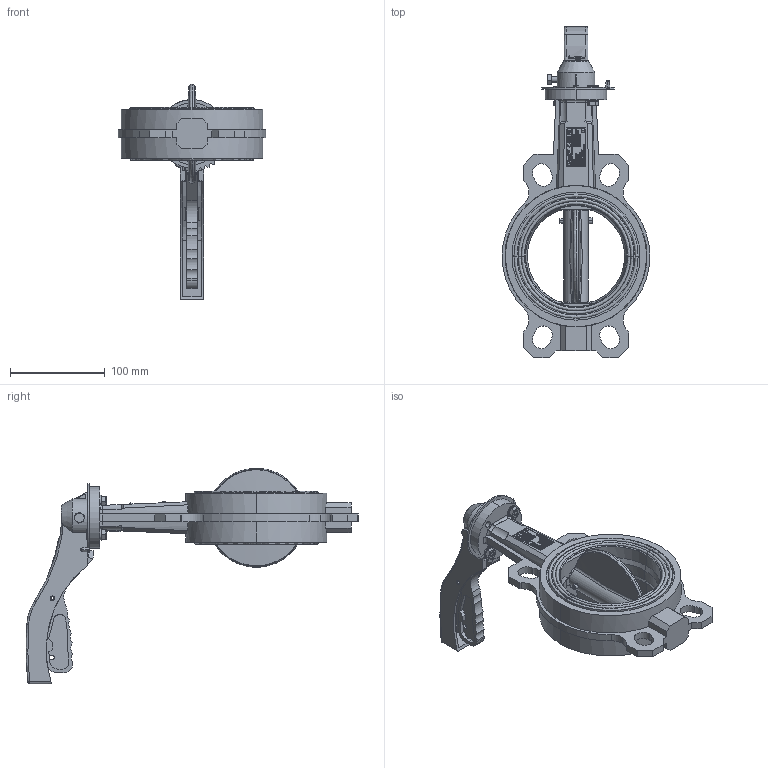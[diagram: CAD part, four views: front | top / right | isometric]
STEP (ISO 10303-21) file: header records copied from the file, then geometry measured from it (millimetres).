
FILE_DESCRIPTION (( 'STEP AP214' ), '1' );
FILE_NAME ('VPG444X-02XX0100-Défaut.step', '2022-05-19T16:18:47', ( '' ), ( '' ), 'SwSTEP 2.0', 'SolidWorks 2020', '' );
FILE_SCHEMA (( 'AUTOMOTIVE_DESIGN' ));
Length unit declared in the file: millimetre
Products named in the file (1): VPG444X-02XX0100-Défaut
Bounding box: 156 x 350.24 x 227.09 mm (x, y, z)
Surface area: 186591.3 mm2 (no closed solid volume)
Topology: 0 solids, 80 shells, 725 faces, 5365 edges, 4686 vertices
Faces by surface type: plane 403, cylinder 146, bspline 108, cone 63, torus 5
Entity records: 77924 total; most frequent: CARTESIAN_POINT 33825, ORIENTED_EDGE 6812, DIRECTION 5745, EDGE_CURVE 5361, VERTEX_POINT 4686, VECTOR 3443, LINE 3443, B_SPLINE_CURVE_WITH_KNOTS 1348
